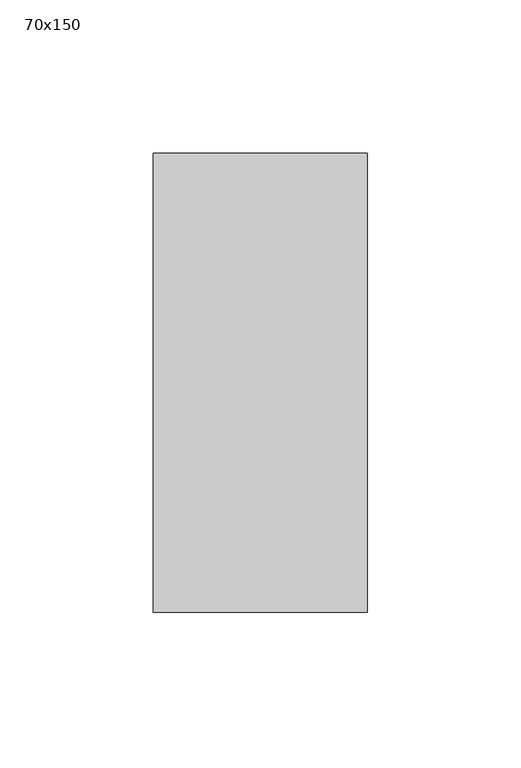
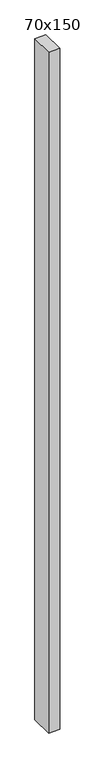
"""IFC4 building model written with IfcOpenShell, lengths in millimetres: member geometry, 長方形のマリオン : 70x150."""

from ifc_helpers import new_model, si_unit, frame, origin, place, context, project, spatial, polyline, outline, extrude, source, transform, mapped, element, save


def member_70x150_cb2c3fb9(model_context):
    return source(origin(), model_context, "Body", "SweptSolid", [
        extrude(outline(polyline([(0.0, 75.0), (0.0, -75.0), (-70.0, -75.0), (-70.0, 75.0), (0.0, 75.0)])), frame((0.0, 0.0, -4563.3333333), z_axis=(0.0, 0.0, 1.0), x_axis=(1.0, 0.0, 0.0)), (0.0, 0.0, 1.0), 4563.3333333),
    ])


if __name__ == "__main__":
    model = new_model("IFC4")
    model_context = context("Model", 3, world=origin())
    ifc_project = project(units=[si_unit("LENGTHUNIT", "METRE", prefix="MILLI")], contexts=[model_context])
    site = spatial("IfcSite", under=ifc_project)
    building = spatial("IfcBuilding", under=site)
    placement = place(None, origin())
    member_70x150_shape = member_70x150_cb2c3fb9(model_context)
    element("IfcMember", 1, ObjectType="長方形のマリオン : 70x150", at=placement, inside=building, context=model_context, shape_type="MappedRepresentation", body=[
        mapped(member_70x150_shape, transform((0.0, 0.0, 0.0), x_axis=(1.0, 0.0, 0.0), y_axis=(0.0, 1.0, 0.0), z_axis=(0.0, 0.0, 1.0))),
    ])
    save(model, "model.ifc")
